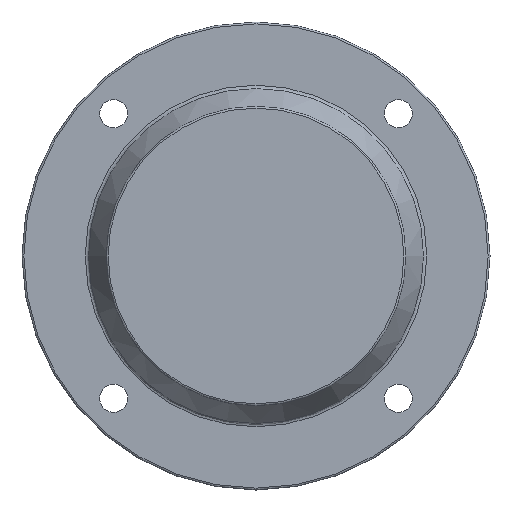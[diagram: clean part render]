
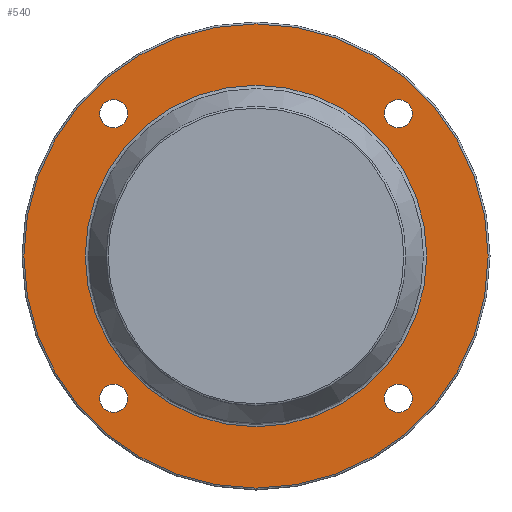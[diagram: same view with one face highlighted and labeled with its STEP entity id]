
A CAD part, left-side view. The second image highlights one B-rep face of the part: STEP entity #540.
In plain terms, the highlighted planar face has unit normal (-1, 0, 0).
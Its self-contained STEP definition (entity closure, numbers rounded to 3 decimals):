
#254=CARTESIAN_POINT('',(78.5,83.514,-76.014));
#255=VERTEX_POINT('',#254);
#256=CARTESIAN_POINT('',(78.5,76.014,-76.014));
#257=DIRECTION('',(1.0,0.0,0.0));
#258=DIRECTION('',(0.0,1.0,0.0));
#259=AXIS2_PLACEMENT_3D('',#256,#257,#258);
#260=CIRCLE('',#259,7.5);
#261=EDGE_CURVE('',#255,#255,#260,.T.);
#303=CARTESIAN_POINT('',(78.5,-68.514,-76.014));
#304=VERTEX_POINT('',#303);
#305=CARTESIAN_POINT('',(78.5,-76.014,-76.014));
#306=DIRECTION('',(1.0,0.0,0.0));
#307=DIRECTION('',(0.0,1.0,0.0));
#308=AXIS2_PLACEMENT_3D('',#305,#306,#307);
#309=CIRCLE('',#308,7.5);
#310=EDGE_CURVE('',#304,#304,#309,.T.);
#352=CARTESIAN_POINT('',(78.5,-68.514,76.014));
#353=VERTEX_POINT('',#352);
#354=CARTESIAN_POINT('',(78.5,-76.014,76.014));
#355=DIRECTION('',(1.0,0.0,0.0));
#356=DIRECTION('',(0.0,1.0,0.0));
#357=AXIS2_PLACEMENT_3D('',#354,#355,#356);
#358=CIRCLE('',#357,7.5);
#359=EDGE_CURVE('',#353,#353,#358,.T.);
#401=CARTESIAN_POINT('',(78.5,83.514,76.014));
#402=VERTEX_POINT('',#401);
#403=CARTESIAN_POINT('',(78.5,76.014,76.014));
#404=DIRECTION('',(1.0,0.0,0.0));
#405=DIRECTION('',(0.0,1.0,0.0));
#406=AXIS2_PLACEMENT_3D('',#403,#404,#405);
#407=CIRCLE('',#406,7.5);
#408=EDGE_CURVE('',#402,#402,#407,.T.);
#477=CARTESIAN_POINT('',(78.5,91.224,0.));
#478=VERTEX_POINT('',#477);
#479=CARTESIAN_POINT('',(78.5,0.0,0.0));
#480=DIRECTION('',(-1.0,0.0,0.0));
#481=DIRECTION('',(0.0,-1.0,0.0));
#482=AXIS2_PLACEMENT_3D('',#479,#480,#481);
#483=CIRCLE('',#482,91.224);
#484=EDGE_CURVE('',#478,#478,#483,.T.);
#509=CARTESIAN_POINT('',(78.5,107.5,0.));
#510=DIRECTION('',(-1.0,0.0,0.0));
#511=DIRECTION('',(0.0,0.0,1.0));
#512=AXIS2_PLACEMENT_3D('',#509,#510,#511);
#513=PLANE('',#512);
#514=CARTESIAN_POINT('',(78.5,124.0,0.0));
#515=VERTEX_POINT('',#514);
#516=CARTESIAN_POINT('',(78.5,0.0,0.0));
#517=DIRECTION('',(1.0,0.0,0.0));
#518=DIRECTION('',(0.0,-1.0,0.0));
#519=AXIS2_PLACEMENT_3D('',#516,#517,#518);
#520=CIRCLE('',#519,124.0);
#521=EDGE_CURVE('',#515,#515,#520,.T.);
#522=ORIENTED_EDGE('',*,*,#521,.F.);
#523=EDGE_LOOP('',(#522));
#524=FACE_OUTER_BOUND('',#523,.T.);
#525=ORIENTED_EDGE('',*,*,#261,.T.);
#526=EDGE_LOOP('',(#525));
#527=FACE_BOUND('',#526,.T.);
#528=ORIENTED_EDGE('',*,*,#310,.T.);
#529=EDGE_LOOP('',(#528));
#530=FACE_BOUND('',#529,.T.);
#531=ORIENTED_EDGE('',*,*,#359,.T.);
#532=EDGE_LOOP('',(#531));
#533=FACE_BOUND('',#532,.T.);
#534=ORIENTED_EDGE('',*,*,#408,.T.);
#535=EDGE_LOOP('',(#534));
#536=FACE_BOUND('',#535,.T.);
#537=ORIENTED_EDGE('',*,*,#484,.F.);
#538=EDGE_LOOP('',(#537));
#539=FACE_BOUND('',#538,.T.);
#540=ADVANCED_FACE('',(#524,#527,#530,#533,#536,#539),#513,.T.);
